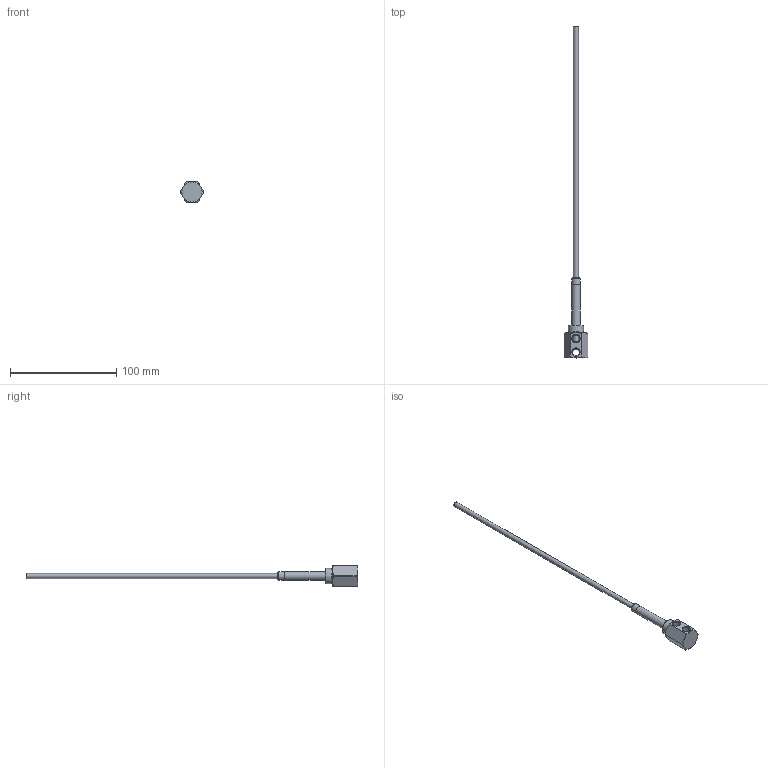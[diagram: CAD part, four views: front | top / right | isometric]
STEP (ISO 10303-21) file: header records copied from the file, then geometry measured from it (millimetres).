
FILE_DESCRIPTION(/* description */ (''),/* implementation_level */ '2;1');
FILE_NAME(/* name */ 'C:/Users/drich/Desktop/16N-HFT v1.step',/* time_stamp */ '2020-01-15T19:36:36-06:00',/* author */ (''),/* organization */ (''),/* preprocessor_version */ 'ST-DEVELOPER v18',/* originating_system */ 'Autodesk Translation Framework v8.12.0.6',/* authorisation */ '');
FILE_SCHEMA (('AUTOMOTIVE_DESIGN { 1 0 10303 214 3 1 1 }'));
Length unit declared in the file: inch
Products named in the file (4): 16N-HFT; 16H; SSPN16-2; HF187T-12
Assembly tree (3 placements, depth 2):
  16N-HFT
    16H
    SSPN16-2
    HF187T-12
Bounding box: 22 x 312.88 x 19.05 mm (x, y, z)
Volume: 9492.4 mm3; surface area: 14042.4 mm2
Topology: 3 solids, 3 shells, 55 faces, 147 edges, 102 vertices
Faces by surface type: cylinder 20, plane 17, cone 13, torus 5
Full cylindrical faces by diameter (mm): 4.242 x1, 4.75 x1, 5.309 x1, 5.474 x1, 6.243 x1, 6.401 x1, 6.697 x4, 7.874 x2, 7.925 x1, 14.275 x1
Entity records: 2033 total; most frequent: CARTESIAN_POINT 473, DIRECTION 336, ORIENTED_EDGE 294, AXIS2_PLACEMENT_3D 150, EDGE_CURVE 147, VERTEX_POINT 102, CIRCLE 88, EDGE_LOOP 69
